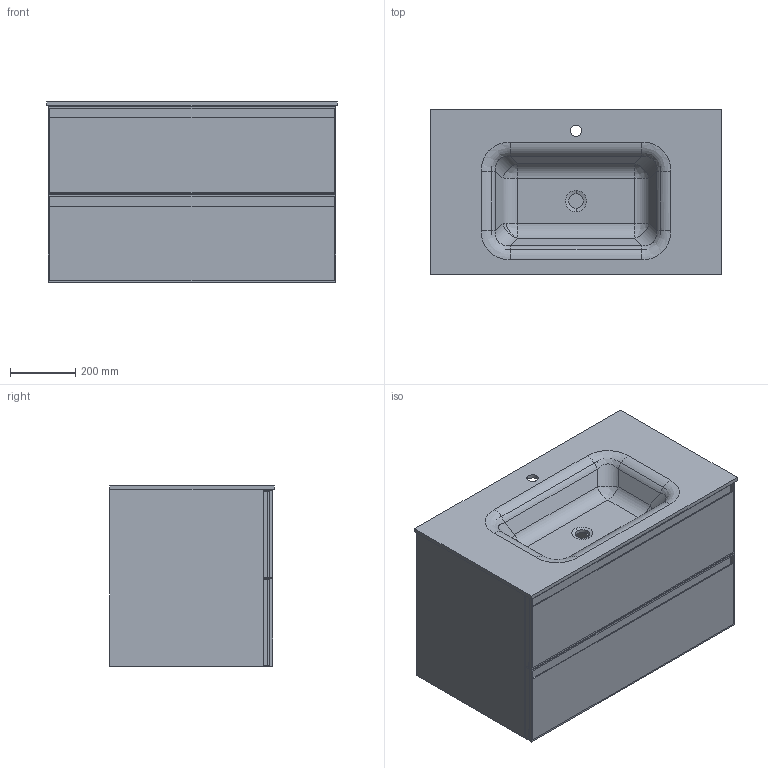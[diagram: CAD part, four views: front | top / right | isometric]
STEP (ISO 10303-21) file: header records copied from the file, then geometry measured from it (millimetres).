
FILE_DESCRIPTION (( 'STEP AP203' ), '1' );
FILE_NAME ('Boffi-900.STEP', '2020-06-26T03:25:33', ( '' ), ( '' ), 'SwSTEP 2.0', 'SolidWorks 2020', '' );
FILE_SCHEMA (( 'CONFIG_CONTROL_DESIGN' ));
Length unit declared in the file: millimetre
Products named in the file (1): Boffi-900
Bounding box: 890 x 505 x 552 mm (x, y, z)
Volume: 45533408.9 mm3; surface area: 7606634.6 mm2
Topology: 33 solids, 33 shells, 410 faces, 980 edges, 638 vertices
Faces by surface type: plane 287, cylinder 103, bspline 18, cone 2
Entity records: 14072 total; most frequent: CARTESIAN_POINT 4334, ORIENTED_EDGE 1952, DIRECTION 1944, EDGE_CURVE 976, LINE 750, VECTOR 750, VERTEX_POINT 638, AXIS2_PLACEMENT_3D 597
